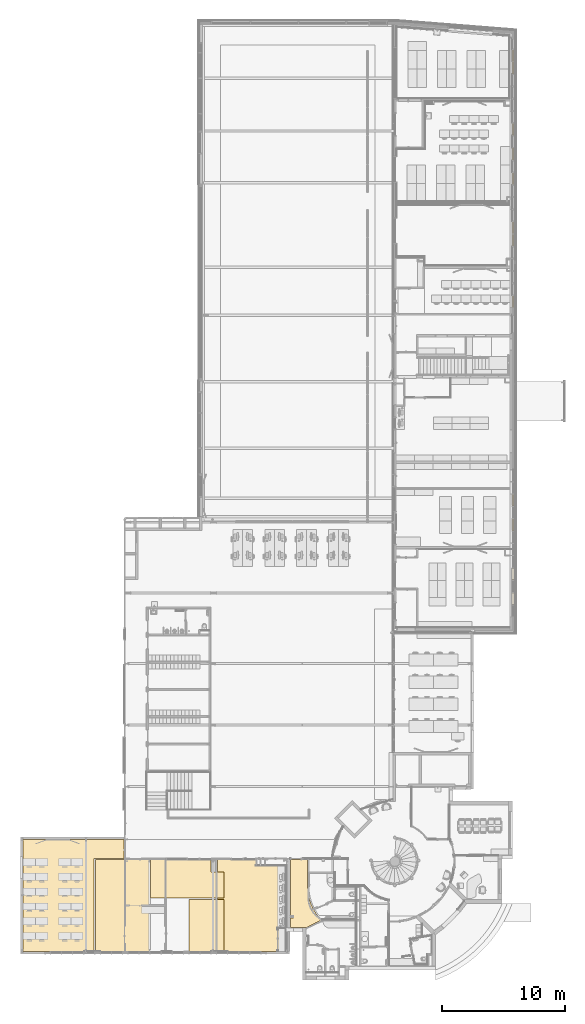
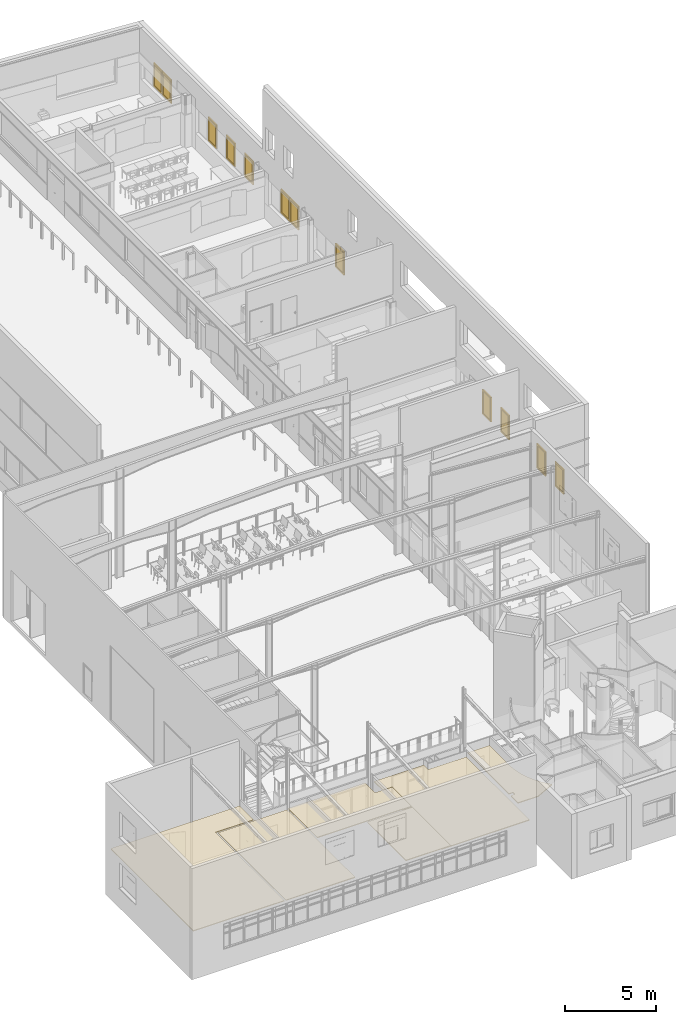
# One storey, part 107 of 137: 12 windows, 6 coverings, 2 elements without a shape of their own.
"""IFC2X3 building model written with IfcOpenShell, lengths in centimetres."""

from ifc_helpers import new_model, entity, si_unit, converted_unit, derived_unit, direction, frame, frame_2d, origin, origin_2d_with_axis, place, context, subcontext, project, spatial, polyline, circle_curve, parameter, trimmed, segment, composite_curve, rectangle, outline, extrude, faceted_brep, source, transform, mapped, material, material_list, layer, layer_set, layer_usage, type_object, type_shapes, element, aggregate, save


model = new_model("IFC2X3")

# Units and contexts
model_context = context("Model", 3, precision=0.001, world=origin(), true_north=direction((6.12303176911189e-17, 1.0)))
body_context = subcontext(model_context, "Body", "Model", "MODEL_VIEW")
ifc_project = project(units=[si_unit("LENGTHUNIT", "METRE", prefix="CENTI"), si_unit("AREAUNIT", "SQUARE_METRE"), si_unit("VOLUMEUNIT", "CUBIC_METRE"), converted_unit("PLANEANGLEUNIT", "DEGREE", entity("IfcRatioMeasure", 0.0174532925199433), si_unit("PLANEANGLEUNIT", "RADIAN"), dimensions=[0, 0, 0, 0, 0, 0, 0]), si_unit("MASSUNIT", "GRAM", prefix="KILO"), si_unit("TIMEUNIT", "SECOND"), si_unit("FREQUENCYUNIT", "HERTZ"), si_unit("THERMODYNAMICTEMPERATUREUNIT", "DEGREE_CELSIUS"), derived_unit("THERMALTRANSMITTANCEUNIT", [(si_unit("MASSUNIT", "GRAM", prefix="KILO"), 1), (si_unit("THERMODYNAMICTEMPERATUREUNIT", "KELVIN"), -1), (si_unit("TIMEUNIT", "SECOND"), -3)]), derived_unit("VOLUMETRICFLOWRATEUNIT", [(si_unit("LENGTHUNIT", "METRE"), 3), (si_unit("TIMEUNIT", "SECOND"), -1)]), si_unit("ELECTRICCURRENTUNIT", "AMPERE"), si_unit("ELECTRICVOLTAGEUNIT", "VOLT"), si_unit("POWERUNIT", "WATT"), si_unit("FORCEUNIT", "NEWTON", prefix="KILO"), si_unit("ILLUMINANCEUNIT", "LUX"), si_unit("LUMINOUSFLUXUNIT", "LUMEN"), si_unit("LUMINOUSINTENSITYUNIT", "CANDELA"), derived_unit("USERDEFINED", [(si_unit("MASSUNIT", "GRAM", prefix="KILO"), -1), (si_unit("LENGTHUNIT", "METRE"), -2), (si_unit("TIMEUNIT", "SECOND"), 3), (si_unit("LUMINOUSFLUXUNIT", "LUMEN"), 1)]), derived_unit("LINEARVELOCITYUNIT", [(si_unit("LENGTHUNIT", "METRE"), 1), (si_unit("TIMEUNIT", "SECOND"), -1)]), si_unit("PRESSUREUNIT", "PASCAL"), derived_unit("USERDEFINED", [(si_unit("LENGTHUNIT", "METRE"), -2), (si_unit("MASSUNIT", "GRAM", prefix="KILO"), 1), (si_unit("TIMEUNIT", "SECOND"), -2)])], contexts=[model_context])

# Site, building, storey
site_placement = place(None, frame((8.62739174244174, -249.285249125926, 0.0)))
site = spatial("IfcSite", under=ifc_project, at=site_placement, Name="Default", CompositionType="ELEMENT")
building_placement = place(site_placement, origin())
building = spatial("IfcBuilding", under=site, at=building_placement, CompositionType="ELEMENT")
storey_placement = place(building_placement, origin())
storey = spatial("IfcBuildingStorey", under=building, at=storey_placement, Name="RDC", CompositionType="ELEMENT", Elevation=-8.82465566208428e-11)

# Curtain wall, windows
curtain_wall_type = type_object("IfcCurtainWallType", Name="Mur-rideau:Simple panneau", PredefinedType="NOTDEFINED")
curtain_wall_1_placement = place(storey_placement, origin())
curtain_wall_1 = element("IfcCurtainWall", 1, at=curtain_wall_1_placement, inside=storey, type_object=curtain_wall_type, Name="Mur-rideau:Simple panneau", ObjectType="Mur-rideau:Simple panneau")
ifc_material_1 = material(Name="PVC - Blanc")
ifc_material_2 = material(Name="Fenêtre - Vitrage")
ifc_material_list_1 = material_list([ifc_material_1, ifc_material_2])
ifc_material_list_2 = material_list([ifc_material_1, ifc_material_2])
window_style_1 = type_object("IfcWindowStyle", Name="MR 1 OB", ConstructionType="NOTDEFINED", OperationType="NOTDEFINED", ParameterTakesPrecedence=False, Sizeable=False, material=ifc_material_list_2)
shared_shape_1 = source(origin(), body_context, "Body", "Brep", [
    faceted_brep([(-40.5646009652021, -4.92408568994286, 47.2033929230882), (-39.4353990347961, -4.92408568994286, 47.2033929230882), (-39.2966070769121, -4.92408568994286, 47.0646009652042), (-39.2966070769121, -4.92408568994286, 45.9332301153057), (-39.4332301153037, -4.92408568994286, 45.7966070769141), (-40.5667698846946, -4.92408568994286, 45.7966070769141), (-40.7033929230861, -4.92408568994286, 45.9332301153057), (-40.7033929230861, -4.92408568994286, 47.0646009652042), (-40.7033929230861, -6.15795106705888, 47.0646009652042), (-40.5646009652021, -6.21544057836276, 47.2033929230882), (-40.7033929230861, -5.68932191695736, 45.9332301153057), (-40.7033929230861, -6.35731580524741, 45.2652362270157), (-40.7033929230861, -6.35731580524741, 37.0), (-40.7033929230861, -7.48868665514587, 37.0), (-40.7033929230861, -7.48868665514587, 45.7338653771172), (-40.5667698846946, -5.63273080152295, 45.7966070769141), (-39.4332301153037, -5.63273080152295, 45.7966070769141), (-39.2966070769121, -5.68932191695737, 45.9332301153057), (-39.2966070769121, -6.15795106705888, 47.0646009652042), (-39.2966070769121, -7.48868665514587, 45.7338653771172), (-39.2966070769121, -7.48868665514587, 37.0), (-39.2966070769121, -6.35731580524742, 37.0), (-39.2966070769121, -6.35731580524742, 45.2652362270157), (-39.4353990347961, -6.21544057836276, 47.2033929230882), (-40.5646009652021, -7.6274786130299, 45.7913548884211), (-40.5667698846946, -6.22069276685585, 45.2086451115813), (-39.4332301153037, -6.22069276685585, 45.2086451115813), (-39.4353990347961, -7.6274786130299, 45.7913548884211), (-40.5646009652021, -7.6274786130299, 37.0), (-40.5667698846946, -6.22069276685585, 37.0), (-39.4332301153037, -6.22069276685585, 37.0), (-39.4353990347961, -7.6274786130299, 37.0)], [[[0, 1, 2, 3, 4, 5, 6, 7]], [[7, 8, 9, 0]], [[6, 10, 11, 12, 13, 14, 8, 7]], [[5, 15, 10, 6]], [[4, 16, 15, 5]], [[3, 17, 16, 4]], [[2, 18, 19, 20, 21, 22, 17, 3]], [[1, 23, 18, 2]], [[0, 9, 23, 1]], [[8, 14, 24, 9]], [[15, 25, 11, 10]], [[16, 26, 25, 15]], [[17, 22, 26, 16]], [[23, 27, 19, 18]], [[9, 24, 27, 23]], [[28, 13, 12, 29, 30, 21, 20, 31]], [[14, 13, 28, 24]], [[25, 29, 12, 11]], [[26, 30, 29, 25]], [[22, 21, 30, 26]], [[27, 31, 20, 19]], [[24, 28, 31, 27]]]),
    faceted_brep([(-40.7000000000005, -4.32408568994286, 49.0), (-39.299999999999, -4.32408568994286, 49.0), (-38.799999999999, -4.32408568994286, 48.500000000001), (-38.799999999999, -4.32408568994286, 41.4999999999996), (-39.2999999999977, -4.32408568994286, 41.0), (-40.7000000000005, -4.32408568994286, 41.0), (-41.1999999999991, -4.32408568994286, 41.4999999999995), (-41.1999999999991, -4.32408568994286, 48.500000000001), (-40.7000000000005, -4.92408568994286, 49.0), (-41.1999999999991, -4.92408568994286, 48.500000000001), (-41.1999999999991, -4.92408568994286, 41.4999999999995), (-40.7000000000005, -4.92408568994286, 41.0), (-39.2999999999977, -4.92408568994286, 41.0), (-38.799999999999, -4.92408568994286, 41.4999999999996), (-38.799999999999, -4.92408568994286, 48.500000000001), (-39.299999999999, -4.92408568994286, 49.0)], [[[0, 1, 2, 3, 4, 5, 6, 7]], [[8, 9, 10, 11, 12, 13, 14, 15]], [[7, 9, 8, 0]], [[6, 10, 9, 7]], [[5, 11, 10, 6]], [[4, 12, 11, 5]], [[3, 13, 12, 4]], [[2, 14, 13, 3]], [[1, 15, 14, 2]], [[0, 8, 15, 1]]]),
    faceted_brep([(37.4999999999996, -1.92408568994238, 150.0), (-37.4999999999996, -1.92408568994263, 150.0), (-37.4999999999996, -1.92408568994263, 10.0), (37.4999999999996, -1.92408568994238, 10.0), (37.4999999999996, -0.724085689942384, 150.0), (37.4999999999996, -0.724085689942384, 10.0), (-37.4999999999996, -0.724085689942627, 10.0), (-37.4999999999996, -0.724085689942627, 150.0)], [[[0, 1, 2, 3]], [[4, 5, 6, 7]], [[1, 0, 4, 7]], [[2, 1, 7, 6]], [[3, 2, 6, 5]], [[0, 3, 5, 4]]]),
    faceted_brep([(-42.4999999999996, 1.67591431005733, 155.0), (-42.4999999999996, -4.3240856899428, 155.0), (42.4999999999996, -4.3240856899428, 155.0), (42.4999999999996, 1.67591431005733, 155.0), (-37.4999999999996, -4.3240856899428, 150.0), (-37.4999999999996, 1.67591431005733, 150.0), (37.4999999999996, 1.67591431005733, 150.0), (37.4999999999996, -4.3240856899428, 150.0), (42.4999999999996, -4.3240856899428, 5.0), (42.4999999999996, 1.67591431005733, 5.0), (37.4999999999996, 1.67591431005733, 10.0), (37.4999999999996, -4.3240856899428, 10.0), (-42.4999999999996, -4.3240856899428, 5.0), (-42.4999999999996, 1.67591431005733, 5.0), (-37.4999999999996, 1.67591431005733, 10.0), (-37.4999999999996, -4.3240856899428, 10.0)], [[[0, 1, 2, 3]], [[4, 5, 6, 7]], [[3, 2, 8, 9]], [[7, 6, 10, 11]], [[9, 8, 12, 13]], [[11, 10, 14, 15]], [[7, 11, 15, 4], [1, 12, 8, 2]], [[13, 12, 1, 0]], [[3, 9, 13, 0], [5, 14, 10, 6]], [[15, 14, 5, 4]]], outer=[[True], [True], [True], [True], [True], [True], [False, True], [True], [True, False], [True]]),
    faceted_brep([(-41.4999999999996, 1.6759143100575, 154.0), (-41.4999999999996, 2.67591431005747, 154.0), (41.4999999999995, 2.67591431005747, 154.0), (41.4999999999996, 1.6759143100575, 154.0), (-42.4999999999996, -4.32408568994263, 155.0), (-42.4999999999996, 1.6759143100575, 155.0), (42.4999999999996, 1.6759143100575, 155.0), (42.4999999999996, -4.32408568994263, 155.0), (-47.4999999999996, 2.67591431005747, 160.0), (-47.4999999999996, -4.32408568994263, 160.0), (47.4999999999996, -4.32408568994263, 160.0), (47.4999999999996, 2.67591431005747, 160.0), (41.4999999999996, 2.67591431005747, 6.0), (41.4999999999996, 1.6759143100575, 6.0), (42.4999999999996, 1.6759143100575, 5.0), (42.4999999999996, -4.32408568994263, 5.0), (47.4999999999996, -4.32408568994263, 0.0), (47.4999999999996, 2.67591431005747, 0.0), (-41.4999999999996, 2.67591431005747, 6.0), (-41.4999999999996, 1.6759143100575, 6.0), (-42.4999999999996, 1.6759143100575, 5.0), (-42.4999999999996, -4.32408568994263, 5.0), (-47.4999999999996, -4.32408568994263, 0.0), (-47.4999999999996, 2.67591431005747, 0.0)], [[[0, 1, 2, 3]], [[4, 5, 6, 7]], [[8, 9, 10, 11]], [[3, 2, 12, 13]], [[7, 6, 14, 15]], [[11, 10, 16, 17]], [[13, 12, 18, 19]], [[15, 14, 20, 21]], [[17, 16, 22, 23]], [[11, 17, 23, 8], [1, 18, 12, 2]], [[19, 18, 1, 0]], [[3, 13, 19, 0], [5, 20, 14, 6]], [[21, 20, 5, 4]], [[7, 15, 21, 4], [9, 22, 16, 10]], [[23, 22, 9, 8]]], outer=[[True], [True], [True], [True], [True], [True], [True], [True], [True], [True, False], [True], [False, True], [True], [False, True], [True]]),
])
type_shapes(window_style_1, [shared_shape_1])
window_1_placement = place(curtain_wall_1_placement, frame((4003.90482781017, 7304.9802081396, 115.0), z_axis=(0.0, 0.0, 1.0), x_axis=(0.0, -1.0, 0.0)))
window_1 = element("IfcWindow", 2, at=window_1_placement, type_object=window_style_1, material=ifc_material_list_1, Name="MR 1 OB:MR 1 OB", ObjectType="MR 1 OB", OverallHeight=160.0, OverallWidth=101.0, context=body_context, shape_type="MappedRepresentation", body=[
    mapped(shared_shape_1, transform((0.0, 0.0, 0.0), scale=1.0)),
])
ifc_material_list_3 = material_list([ifc_material_1, ifc_material_2])
window_2_placement = place(curtain_wall_1_placement, frame((4003.90482781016, 7204.9802081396, 115.0), z_axis=(0.0, 0.0, 1.0), x_axis=(0.0, -1.0, 0.0)))
window_2 = element("IfcWindow", 3, at=window_2_placement, type_object=window_style_1, material=ifc_material_list_3, Name="MR 1 OB:MR 1 OB", ObjectType="MR 1 OB", OverallHeight=160.0, OverallWidth=101.0, context=body_context, shape_type="MappedRepresentation", body=[
    mapped(shared_shape_1, transform((0.0, 0.0, 0.0), scale=1.0)),
])
ifc_material_list_4 = material_list([ifc_material_1, ifc_material_2])
window_3_placement = place(curtain_wall_1_placement, frame((4003.90482781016, 6704.9802081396, 115.0), z_axis=(0.0, 0.0, 1.0), x_axis=(0.0, -1.0, 0.0)))
window_3 = element("IfcWindow", 4, at=window_3_placement, type_object=window_style_1, material=ifc_material_list_4, Name="MR 1 OB:MR 1 OB", ObjectType="MR 1 OB", OverallHeight=160.0, OverallWidth=101.0, context=body_context, shape_type="MappedRepresentation", body=[
    mapped(shared_shape_1, transform((0.0, 0.0, 0.0), scale=1.0)),
])
ifc_material_list_5 = material_list([ifc_material_1, ifc_material_2])
window_4_placement = place(curtain_wall_1_placement, frame((4003.90482781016, 6504.9802081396, 115.0), z_axis=(0.0, 0.0, 1.0), x_axis=(0.0, -1.0, 0.0)))
window_4 = element("IfcWindow", 5, at=window_4_placement, type_object=window_style_1, material=ifc_material_list_5, Name="MR 1 OB:MR 1 OB", ObjectType="MR 1 OB", OverallHeight=160.0, OverallWidth=101.0, context=body_context, shape_type="MappedRepresentation", body=[
    mapped(shared_shape_1, transform((0.0, 0.0, 0.0), scale=1.0)),
])
ifc_material_list_6 = material_list([ifc_material_1, ifc_material_2])
window_5_placement = place(curtain_wall_1_placement, frame((4003.90482781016, 6304.9802081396, 115.0), z_axis=(0.0, 0.0, 1.0), x_axis=(0.0, -1.0, 0.0)))
window_5 = element("IfcWindow", 6, at=window_5_placement, type_object=window_style_1, material=ifc_material_list_6, Name="MR 1 OB:MR 1 OB", ObjectType="MR 1 OB", OverallHeight=160.0, OverallWidth=101.0, context=body_context, shape_type="MappedRepresentation", body=[
    mapped(shared_shape_1, transform((0.0, 0.0, 0.0), scale=1.0)),
])
ifc_material_list_7 = material_list([ifc_material_1, ifc_material_2])
window_6_placement = place(curtain_wall_1_placement, frame((4003.90482781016, 5904.9802081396, 115.0), z_axis=(0.0, 0.0, 1.0), x_axis=(0.0, -1.0, 0.0)))
window_6 = element("IfcWindow", 7, at=window_6_placement, type_object=window_style_1, material=ifc_material_list_7, Name="MR 1 OB:MR 1 OB", ObjectType="MR 1 OB", OverallHeight=160.0, OverallWidth=101.0, context=body_context, shape_type="MappedRepresentation", body=[
    mapped(shared_shape_1, transform((0.0, 0.0, 0.0), scale=1.0)),
])
ifc_material_list_8 = material_list([ifc_material_1, ifc_material_2])
window_7_placement = place(curtain_wall_1_placement, frame((4003.90482781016, 5804.9802081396, 115.0), z_axis=(0.0, 0.0, 1.0), x_axis=(0.0, -1.0, 0.0)))
window_7 = element("IfcWindow", 8, at=window_7_placement, type_object=window_style_1, material=ifc_material_list_8, Name="MR 1 OB:MR 1 OB", ObjectType="MR 1 OB", OverallHeight=160.0, OverallWidth=101.0, context=body_context, shape_type="MappedRepresentation", body=[
    mapped(shared_shape_1, transform((0.0, 0.0, 0.0), scale=1.0)),
])
ifc_material_list_9 = material_list([ifc_material_1, ifc_material_2])
window_8_placement = place(curtain_wall_1_placement, frame((4003.90482781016, 5304.9802081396, 115.0), z_axis=(0.0, 0.0, 1.0), x_axis=(0.0, -1.0, 0.0)))
window_8 = element("IfcWindow", 9, at=window_8_placement, type_object=window_style_1, material=ifc_material_list_9, Name="MR 1 OB:MR 1 OB", ObjectType="MR 1 OB", OverallHeight=160.0, OverallWidth=101.0, context=body_context, shape_type="MappedRepresentation", body=[
    mapped(shared_shape_1, transform((0.0, 0.0, 0.0), scale=1.0)),
])
aggregate(curtain_wall_1, [window_1, window_2, window_3, window_4, window_5, window_6, window_7, window_8])

curtain_wall_2_placement = place(storey_placement, origin())
curtain_wall_2 = element("IfcCurtainWall", 10, at=curtain_wall_2_placement, inside=storey, type_object=curtain_wall_type, Name="Mur-rideau:Simple panneau", ObjectType="Mur-rideau:Simple panneau")
ifc_material_list_10 = material_list([ifc_material_1, ifc_material_2])
ifc_material_list_11 = material_list([ifc_material_1, ifc_material_2])
window_style_2 = type_object("IfcWindowStyle", Name="MR 1 OB", ConstructionType="NOTDEFINED", OperationType="NOTDEFINED", ParameterTakesPrecedence=False, Sizeable=False, material=ifc_material_list_11)
shared_shape_2 = source(origin(), body_context, "Body", "Brep", [
    faceted_brep([(-40.5646009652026, -4.92408568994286, 47.2033929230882), (-39.4353990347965, -4.92408568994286, 47.2033929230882), (-39.2966070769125, -4.92408568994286, 47.0646009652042), (-39.2966070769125, -4.92408568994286, 45.9332301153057), (-39.4332301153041, -4.92408568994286, 45.7966070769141), (-40.566769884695, -4.92408568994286, 45.7966070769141), (-40.7033929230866, -4.92408568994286, 45.9332301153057), (-40.7033929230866, -4.92408568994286, 47.0646009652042), (-40.7033929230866, -6.15795106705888, 47.0646009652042), (-40.5646009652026, -6.21544057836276, 47.2033929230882), (-40.7033929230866, -5.68932191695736, 45.9332301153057), (-40.7033929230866, -6.35731580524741, 45.2652362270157), (-40.7033929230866, -6.35731580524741, 37.0), (-40.7033929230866, -7.48868665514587, 37.0), (-40.7033929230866, -7.48868665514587, 45.7338653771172), (-40.566769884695, -5.63273080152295, 45.7966070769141), (-39.4332301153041, -5.63273080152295, 45.7966070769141), (-39.2966070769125, -5.68932191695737, 45.9332301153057), (-39.2966070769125, -6.15795106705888, 47.0646009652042), (-39.2966070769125, -7.48868665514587, 45.7338653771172), (-39.2966070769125, -7.48868665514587, 37.0), (-39.2966070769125, -6.35731580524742, 37.0), (-39.2966070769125, -6.35731580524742, 45.2652362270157), (-39.4353990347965, -6.21544057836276, 47.2033929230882), (-40.5646009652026, -7.6274786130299, 45.7913548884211), (-40.566769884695, -6.22069276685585, 45.2086451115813), (-39.4332301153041, -6.22069276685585, 45.2086451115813), (-39.4353990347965, -7.6274786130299, 45.7913548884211), (-40.5646009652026, -7.6274786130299, 37.0), (-40.566769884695, -6.22069276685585, 37.0), (-39.4332301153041, -6.22069276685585, 37.0), (-39.4353990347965, -7.6274786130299, 37.0)], [[[0, 1, 2, 3, 4, 5, 6, 7]], [[7, 8, 9, 0]], [[6, 10, 11, 12, 13, 14, 8, 7]], [[5, 15, 10, 6]], [[4, 16, 15, 5]], [[3, 17, 16, 4]], [[2, 18, 19, 20, 21, 22, 17, 3]], [[1, 23, 18, 2]], [[0, 9, 23, 1]], [[8, 14, 24, 9]], [[15, 25, 11, 10]], [[16, 26, 25, 15]], [[17, 22, 26, 16]], [[23, 27, 19, 18]], [[9, 24, 27, 23]], [[28, 13, 12, 29, 30, 21, 20, 31]], [[14, 13, 28, 24]], [[25, 29, 12, 11]], [[26, 30, 29, 25]], [[22, 21, 30, 26]], [[27, 31, 20, 19]], [[24, 28, 31, 27]]]),
    faceted_brep([(-40.700000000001, -4.32408568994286, 49.0), (-39.2999999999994, -4.32408568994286, 49.0), (-38.7999999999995, -4.32408568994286, 48.500000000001), (-38.7999999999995, -4.32408568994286, 41.4999999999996), (-39.2999999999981, -4.32408568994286, 41.0), (-40.700000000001, -4.32408568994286, 41.0), (-41.1999999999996, -4.32408568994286, 41.4999999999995), (-41.1999999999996, -4.32408568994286, 48.500000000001), (-40.700000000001, -4.92408568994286, 49.0), (-41.1999999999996, -4.92408568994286, 48.500000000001), (-41.1999999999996, -4.92408568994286, 41.4999999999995), (-40.700000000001, -4.92408568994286, 41.0), (-39.2999999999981, -4.92408568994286, 41.0), (-38.7999999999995, -4.92408568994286, 41.4999999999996), (-38.7999999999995, -4.92408568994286, 48.500000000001), (-39.2999999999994, -4.92408568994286, 49.0)], [[[0, 1, 2, 3, 4, 5, 6, 7]], [[8, 9, 10, 11, 12, 13, 14, 15]], [[7, 9, 8, 0]], [[6, 10, 9, 7]], [[5, 11, 10, 6]], [[4, 12, 11, 5]], [[3, 13, 12, 4]], [[2, 14, 13, 3]], [[1, 15, 14, 2]], [[0, 8, 15, 1]]]),
    faceted_brep([(37.5, -1.92408568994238, 155.0), (-37.5000000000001, -1.92408568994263, 155.0), (-37.5000000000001, -1.92408568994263, 10.0), (37.5, -1.92408568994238, 10.0), (37.5, -0.724085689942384, 155.0), (37.5, -0.724085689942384, 10.0), (-37.5000000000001, -0.724085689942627, 10.0), (-37.5000000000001, -0.724085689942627, 155.0)], [[[0, 1, 2, 3]], [[4, 5, 6, 7]], [[1, 0, 4, 7]], [[2, 1, 7, 6]], [[3, 2, 6, 5]], [[0, 3, 5, 4]]]),
    faceted_brep([(-42.5, 1.67591431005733, 160.0), (-42.5, -4.3240856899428, 160.0), (42.5, -4.3240856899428, 160.0), (42.5, 1.67591431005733, 160.0), (-37.5, -4.3240856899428, 155.0), (-37.5, 1.67591431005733, 155.0), (37.5, 1.67591431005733, 155.0), (37.5, -4.3240856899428, 155.0), (42.5, -4.3240856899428, 5.0), (42.5, 1.67591431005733, 5.0), (37.5, 1.67591431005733, 10.0), (37.5, -4.3240856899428, 10.0), (-42.5, -4.3240856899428, 5.0), (-42.5, 1.67591431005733, 5.0), (-37.5, 1.67591431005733, 10.0), (-37.5, -4.3240856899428, 10.0)], [[[0, 1, 2, 3]], [[4, 5, 6, 7]], [[3, 2, 8, 9]], [[7, 6, 10, 11]], [[9, 8, 12, 13]], [[11, 10, 14, 15]], [[7, 11, 15, 4], [1, 12, 8, 2]], [[13, 12, 1, 0]], [[3, 9, 13, 0], [5, 14, 10, 6]], [[15, 14, 5, 4]]], outer=[[True], [True], [True], [True], [True], [True], [False, True], [True], [True, False], [True]]),
    faceted_brep([(-41.5, 1.6759143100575, 159.0), (-41.5, 2.67591431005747, 159.0), (41.5, 2.67591431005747, 159.0), (41.5, 1.6759143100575, 159.0), (-42.5, -4.32408568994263, 160.0), (-42.5, 1.6759143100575, 160.0), (42.5, 1.6759143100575, 160.0), (42.5, -4.32408568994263, 160.0), (-47.5, 2.67591431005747, 165.0), (-47.5, -4.32408568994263, 165.0), (47.5, -4.32408568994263, 165.0), (47.5, 2.67591431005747, 165.0), (41.5, 2.67591431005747, 6.0), (41.5, 1.6759143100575, 6.0), (42.5, 1.6759143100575, 5.0), (42.5, -4.32408568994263, 5.0), (47.5, -4.32408568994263, 0.0), (47.5, 2.67591431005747, 0.0), (-41.5, 2.67591431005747, 6.0), (-41.5, 1.6759143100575, 6.0), (-42.5, 1.6759143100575, 5.0), (-42.5, -4.32408568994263, 5.0), (-47.5, -4.32408568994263, 0.0), (-47.5, 2.67591431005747, 0.0)], [[[0, 1, 2, 3]], [[4, 5, 6, 7]], [[8, 9, 10, 11]], [[3, 2, 12, 13]], [[7, 6, 14, 15]], [[11, 10, 16, 17]], [[13, 12, 18, 19]], [[15, 14, 20, 21]], [[17, 16, 22, 23]], [[11, 17, 23, 8], [1, 18, 12, 2]], [[19, 18, 1, 0]], [[3, 13, 19, 0], [5, 20, 14, 6]], [[21, 20, 5, 4]], [[7, 15, 21, 4], [9, 22, 16, 10]], [[23, 22, 9, 8]]], outer=[[True], [True], [True], [True], [True], [True], [True], [True], [True], [True, False], [True], [False, True], [True], [False, True], [True]]),
])
type_shapes(window_style_2, [shared_shape_2])
window_9_placement = place(curtain_wall_2_placement, frame((4003.90482781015, 3689.68519336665, 110.0), z_axis=(0.0, 0.0, 1.0), x_axis=(0.0, -1.0, 0.0)))
window_9 = element("IfcWindow", 11, at=window_9_placement, type_object=window_style_2, material=ifc_material_list_10, Name="MR 1 OB:MR 1 OB", ObjectType="MR 1 OB", OverallHeight=165.000000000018, OverallWidth=101.0, context=body_context, shape_type="MappedRepresentation", body=[
    mapped(shared_shape_2, transform((0.0, 0.0, 0.0), scale=1.0)),
])
ifc_material_list_12 = material_list([ifc_material_1, ifc_material_2])
window_10_placement = place(curtain_wall_2_placement, frame((4003.90482781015, 3489.68519336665, 110.0), z_axis=(0.0, 0.0, 1.0), x_axis=(0.0, -1.0, 0.0)))
window_10 = element("IfcWindow", 12, at=window_10_placement, type_object=window_style_2, material=ifc_material_list_12, Name="MR 1 OB:MR 1 OB", ObjectType="MR 1 OB", OverallHeight=165.000000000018, OverallWidth=101.0, context=body_context, shape_type="MappedRepresentation", body=[
    mapped(shared_shape_2, transform((0.0, 0.0, 0.0), scale=1.0)),
])
ifc_material_list_13 = material_list([ifc_material_1, ifc_material_2])
window_11_placement = place(curtain_wall_2_placement, frame((4003.90482781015, 3089.68519336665, 110.0), z_axis=(0.0, 0.0, 1.0), x_axis=(0.0, -1.0, 0.0)))
window_11 = element("IfcWindow", 13, at=window_11_placement, type_object=window_style_2, material=ifc_material_list_13, Name="MR 1 OB:MR 1 OB", ObjectType="MR 1 OB", OverallHeight=165.000000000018, OverallWidth=101.0, context=body_context, shape_type="MappedRepresentation", body=[
    mapped(shared_shape_2, transform((0.0, 0.0, 0.0), scale=1.0)),
])
ifc_material_list_14 = material_list([ifc_material_1, ifc_material_2])
window_12_placement = place(curtain_wall_2_placement, frame((4003.90482781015, 2889.68519336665, 110.0), z_axis=(0.0, 0.0, 1.0), x_axis=(0.0, -1.0, 0.0)))
window_12 = element("IfcWindow", 14, at=window_12_placement, type_object=window_style_2, material=ifc_material_list_14, Name="MR 1 OB:MR 1 OB", ObjectType="MR 1 OB", OverallHeight=165.000000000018, OverallWidth=101.0, context=body_context, shape_type="MappedRepresentation", body=[
    mapped(shared_shape_2, transform((0.0, 0.0, 0.0), scale=1.0)),
])
aggregate(curtain_wall_2, [window_9, window_10, window_11, window_12])

# Coverings
ifc_material_3 = material(Name="Maçonnerie - Isolant_MU")
ifc_layer = layer(ifc_material_3, 5.0)
ifc_layer_set = layer_set([ifc_layer], Name="Plafond composé:Plafond avec isolation")
ifc_layer_usage_1 = layer_usage(ifc_layer_set, "AXIS3", "NEGATIVE", 0.0)
covering_1_placement = place(storey_placement, origin())
element("IfcCovering", 15, at=covering_1_placement, inside=storey, material=ifc_layer_usage_1, Name="Plafond composé:Plafond avec isolation", ObjectType="Plafond composé:Plafond avec isolation", PredefinedType="CEILING", context=body_context, shape_type="SweptSolid", body=[
    extrude(outline(polyline([(111.698390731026, 200.999045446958), (353.603218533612, 200.999045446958), (353.603218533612, 354.000477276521), (-465.301609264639, 354.000477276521), (-465.301609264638, -554.999522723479), (111.698390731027, -554.999522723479), (111.698390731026, 200.999045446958)])), frame((487.301609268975, 576.999522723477, 280.0)), (0.0, 0.0, 1.0), 5.0),
])
ifc_layer_usage_2 = layer_usage(ifc_layer_set, "AXIS3", "NEGATIVE", 0.0)
covering_2_placement = place(storey_placement, origin())
element("IfcCovering", 16, at=covering_2_placement, inside=storey, material=ifc_layer_usage_2, Name="Plafond composé:Plafond avec isolation", ObjectType="Plafond composé:Plafond avec isolation", PredefinedType="CEILING", context=body_context, shape_type="SweptSolid", body=[
    extrude(rectangle(XDim=745.998568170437, YDim=439.904827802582, at=frame_2d((0.0, -5.6843418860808e-14), x_axis=(1.0, 0.0))), frame((828.952413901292, 394.999284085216, 280.0), z_axis=(0.0, 0.0, 1.0), x_axis=(0.0, 1.0, 0.0)), (0.0, 0.0, 1.0), 5.0),
])
ifc_layer_usage_3 = layer_usage(ifc_layer_set, "AXIS3", "NEGATIVE", 0.0)
covering_3_placement = place(storey_placement, origin())
element("IfcCovering", 17, at=covering_3_placement, inside=storey, material=ifc_layer_usage_3, Name="Plafond composé:Plafond avec isolation", ObjectType="Plafond composé:Plafond avec isolation", PredefinedType="CEILING", context=body_context, shape_type="SweptSolid", body=[
    extrude(rectangle(XDim=284.999999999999, YDim=424.0, at=origin_2d_with_axis()), frame((1514.0, 234.0, 280.0), z_axis=(0.0, 0.0, 1.0), x_axis=(-1.0, 0.0, 0.0)), (0.0, 0.0, 1.0), 5.0),
])

# Space
space_1_placement = place(storey_placement, origin())
space_1 = spatial("IfcSpace", under=storey, at=space_1_placement, Name="084", CompositionType="ELEMENT", InteriorOrExteriorSpace="INTERNAL")

# Covering
ifc_layer_usage_4 = layer_usage(ifc_layer_set, "AXIS3", "NEGATIVE", 0.0)
covering_4_placement = place(space_1_placement, origin())
element("IfcCovering", 18, at=covering_4_placement, inside=space_1, material=ifc_layer_usage_4, Name="Plafond composé:Plafond avec isolation", ObjectType="Plafond composé:Plafond avec isolation", PredefinedType="CEILING", context=body_context, shape_type="SweptSolid", body=[
    extrude(outline(composite_curve([segment(polyline([(180.895665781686, 125.531588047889), (56.7893704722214, 186.062272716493)]), True, "CONTINUOUS"), segment(polyline([(56.7893704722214, 186.062272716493), (-71.2106295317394, 186.062272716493)]), True, "CONTINUOUS"), segment(polyline([(-71.2106295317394, 186.062272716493), (-71.2106295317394, 106.062272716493)]), True, "CONTINUOUS"), segment(polyline([(-71.2106295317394, 106.062272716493), (-45.210629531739, 106.062272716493)]), True, "CONTINUOUS"), segment(polyline([(-45.210629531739, 106.062272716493), (-45.210629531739, 86.0622727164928)]), True, "CONTINUOUS"), segment(polyline([(-45.210629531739, 86.0622727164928), (-71.2106295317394, 86.0622727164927)]), True, "CONTINUOUS"), segment(polyline([(-71.2106295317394, 86.0622727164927), (-71.2106295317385, -368.957519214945)]), True, "CONTINUOUS"), segment(polyline([(-71.2106295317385, -368.957519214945), (68.789370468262, -368.957519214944)]), True, "CONTINUOUS"), segment(polyline([(68.789370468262, -368.957519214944), (68.7893704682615, -143.99018591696)]), True, "CONTINUOUS"), segment(trimmed(circle_curve(frame_2d((467.0815364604, -151.581984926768), x_axis=(1.0, 0.0)), 398.364512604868), [parameter(135.922705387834)], [parameter(178.908024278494)], True, "PARAMETER"), False, "CONTINUOUS")], self_intersect=False)), frame((2266.11545734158, 402.042480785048, 260.0), z_axis=(0.0, 0.0, -1.0), x_axis=(1.0, 0.0, 0.0)), (0.0, 0.0, -1.0), 5.0),
])

# Space
space_2_placement = place(storey_placement, origin())
space_2 = spatial("IfcSpace", under=storey, at=space_2_placement, Name="101", CompositionType="ELEMENT", InteriorOrExteriorSpace="INTERNAL")

# Covering
ifc_layer_usage_5 = layer_usage(ifc_layer_set, "AXIS3", "NEGATIVE", 0.0)
covering_5_placement = place(space_2_placement, origin())
element("IfcCovering", 19, at=covering_5_placement, inside=space_2, material=ifc_layer_usage_5, Name="Plafond composé:Plafond avec isolation", ObjectType="Plafond composé:Plafond avec isolation", PredefinedType="CEILING", context=body_context, shape_type="SweptSolid", body=[
    extrude(outline(polyline([(-143.99952272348, -361.896781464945), (177.999045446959, -361.896781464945), (177.999045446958, 235.698390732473), (-33.9995227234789, 235.698390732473), (-33.9995227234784, 126.198390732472), (-143.999522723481, 126.198390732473), (-143.99952272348, -361.896781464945)])), frame((1420.80160926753, 633.999045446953, 280.0), z_axis=(0.0, 0.0, 1.0), x_axis=(0.0, -1.0, 0.0)), (0.0, 0.0, 1.0), 5.0),
])

# Space
space_3_placement = place(storey_placement, origin())
space_3 = spatial("IfcSpace", under=storey, at=space_3_placement, Name="102", CompositionType="ELEMENT", InteriorOrExteriorSpace="INTERNAL")

# Covering
ifc_layer_usage_6 = layer_usage(ifc_layer_set, "AXIS3", "NEGATIVE", 0.0)
covering_6_placement = place(space_3_placement, origin())
element("IfcCovering", 20, at=covering_6_placement, inside=space_3, material=ifc_layer_usage_6, Name="Plafond composé:Plafond avec isolation", ObjectType="Plafond composé:Plafond avec isolation", PredefinedType="CEILING", context=body_context, shape_type="SweptSolid", body=[
    extrude(outline(polyline([(-290.0, -480.666666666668), (266.0, -480.666666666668), (266.0, 215.333333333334), (24.0, 215.333333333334), (24.0, 265.333333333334), (-290.0, 265.333333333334), (-290.0, -480.666666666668)])), frame((1890.0, 502.666666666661, 277.0)), (0.0, 0.0, 1.0), 5.0),
])

save(model, "model.ifc")
